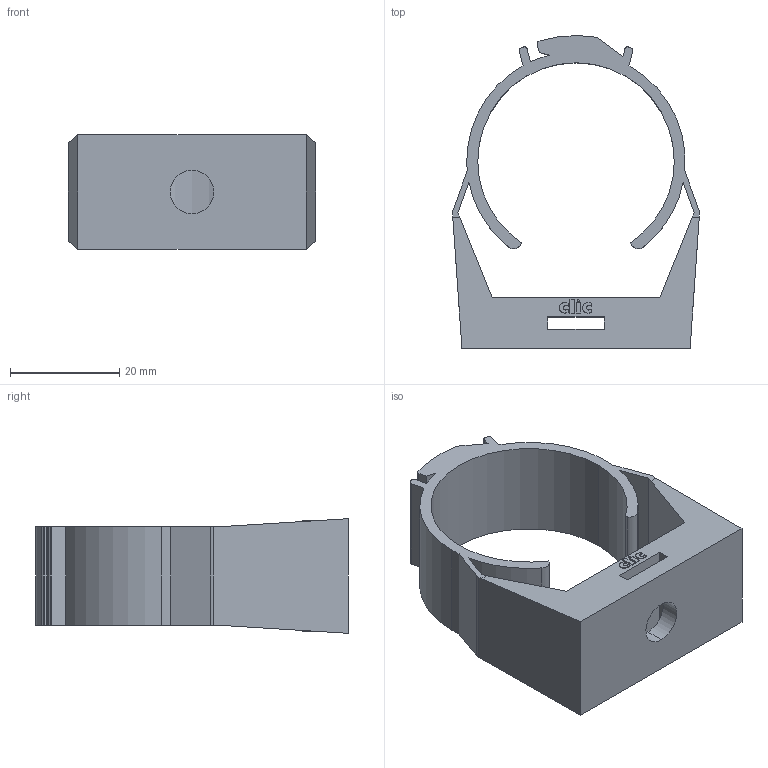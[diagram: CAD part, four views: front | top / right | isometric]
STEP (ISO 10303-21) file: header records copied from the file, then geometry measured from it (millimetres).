
FILE_DESCRIPTION (( 'STEP AP214' ), '1' );
FILE_NAME ('CLIC36.STEP', '2021-10-11T09:43:59', ( '' ), ( '' ), 'SwSTEP 2.0', 'SolidWorks 2021', '' );
FILE_SCHEMA (( 'AUTOMOTIVE_DESIGN' ));
Length unit declared in the file: millimetre
Products named in the file (1): CLIC36
Bounding box: 45.26 x 57.3 x 21 mm (x, y, z)
Volume: 13995.1 mm3; surface area: 9361.5 mm2
Topology: 1 solids, 1 shells, 118 faces, 324 edges, 216 vertices
Faces by surface type: plane 61, cylinder 29, bspline 28
Entity records: 3860 total; most frequent: CARTESIAN_POINT 1023, ORIENTED_EDGE 648, DIRECTION 508, EDGE_CURVE 324, VERTEX_POINT 216, LINE 210, VECTOR 210, AXIS2_PLACEMENT_3D 149
